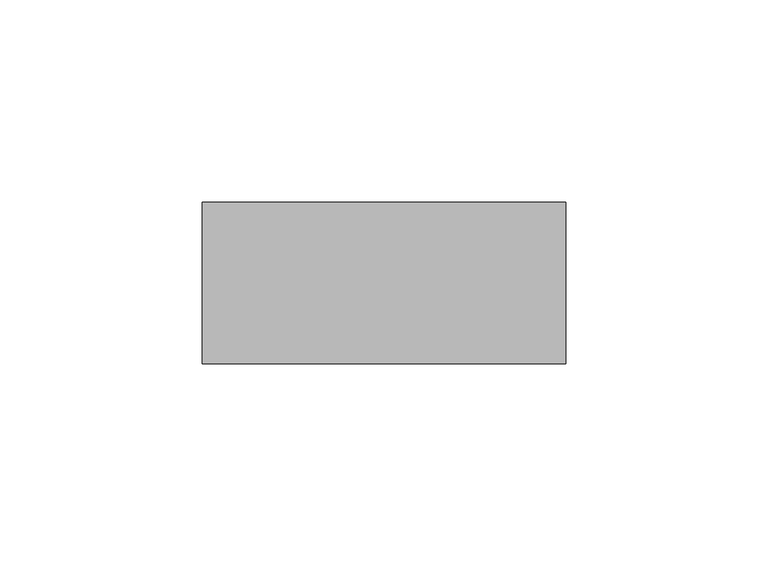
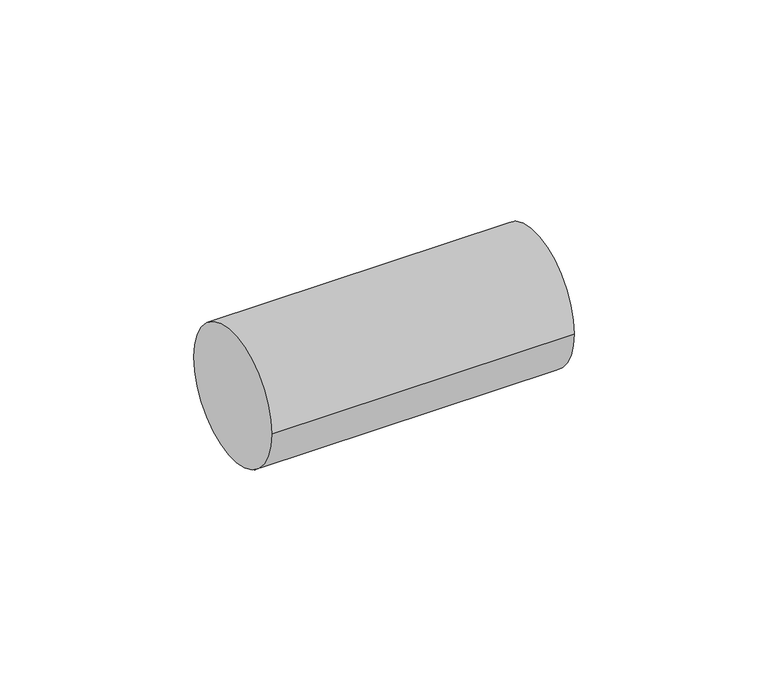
"""IFC4 building model written with IfcOpenShell, lengths in millimetres: valve geometry, EVRA_Термоголовка EVRA MТB140 : EVRA MТB140."""

from ifc_helpers import new_model, si_unit, point, frame, origin, origin_2d, place, context, project, spatial, circle_curve, trimmed, segment, composite_curve, outline, extrude, source, transform, mapped, element, save


def valve_73842d38(model_context):
    return source(origin(), model_context, "Body", "SweptSolid", [
        extrude(outline(composite_curve([segment(trimmed(circle_curve(origin_2d(), 20.0), [point((-20.0, 0.0))], [point((20.0, 0.0))], False, "CARTESIAN"), True, "CONTINUOUS"), segment(trimmed(circle_curve(origin_2d(), 20.0), [point((20.0, 0.0))], [point((-20.0, 0.0))], False, "CARTESIAN"), True, "CONTINUOUS")], self_intersect=False)), frame((-590.0, 0.0, 0.0), z_axis=(1.0, 0.0, 0.0), x_axis=(0.0, 1.0, 0.0)), (0.0, 0.0, 1.0), 90.0),
    ])


if __name__ == "__main__":
    model = new_model("IFC4")
    model_context = context("Model", 3, world=origin())
    ifc_project = project(units=[si_unit("LENGTHUNIT", "METRE", prefix="MILLI")], contexts=[model_context])
    site = spatial("IfcSite", under=ifc_project)
    building = spatial("IfcBuilding", under=site)
    placement = place(None, origin())
    valve_shape = valve_73842d38(model_context)
    element("IfcValve", 1, ObjectType="EVRA_Термоголовка EVRA MТB140 : EVRA MТB140", at=placement, inside=building, context=model_context, shape_type="MappedRepresentation", body=[
        mapped(valve_shape, transform((0.0, 0.0, 0.0), x_axis=(1.0, 0.0, 0.0), y_axis=(0.0, 1.0, 0.0), z_axis=(0.0, 0.0, 1.0))),
    ])
    save(model, "model.ifc")
